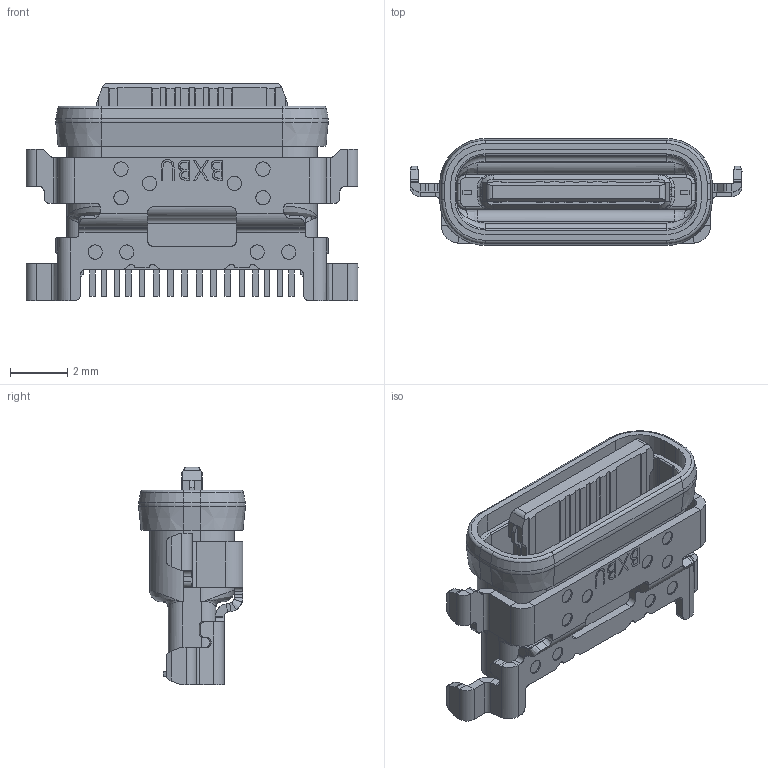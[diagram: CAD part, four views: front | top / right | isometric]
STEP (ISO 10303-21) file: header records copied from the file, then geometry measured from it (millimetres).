
FILE_DESCRIPTION (( 'STEP AP214' ), '1' );
FILE_NAME ('U5292-16PNW1.13C6.5LF.STEP', '2026-07-30T01:55:59', ( '' ), ( '' ), 'SwSTEP 2.0', 'SolidWorks 2024', '' );
FILE_SCHEMA (( 'AUTOMOTIVE_DESIGN' ));
Length unit declared in the file: millimetre
Products named in the file (3): _CF190-16-D3_3D_; U5292-16PNW1.13C6.5LF; U5292-16PNW1.13C6.5LF(2)
Assembly tree (2 placements, depth 3):
  U5292-16PNW1.13C6.5LF
    U5292-16PNW1.13C6.5LF(2)
      _CF190-16-D3_3D_
Bounding box: 11.6 x 3.74 x 7.6 mm (x, y, z)
Surface area: 491.4 mm2 (no closed solid volume)
Topology: 0 solids, 6 shells, 861 faces, 2248 edges, 1418 vertices
Faces by surface type: plane 522, cylinder 237, torus 36, cone 34, bspline 32
Entity records: 32064 total; most frequent: CARTESIAN_POINT 15292, ORIENTED_EDGE 4479, EDGE_CURVE 2245, B_SPLINE_CURVE_WITH_KNOTS 2090, DIRECTION 1848, VERTEX_POINT 1418, EDGE_LOOP 910, AXIS2_PLACEMENT_3D 879
